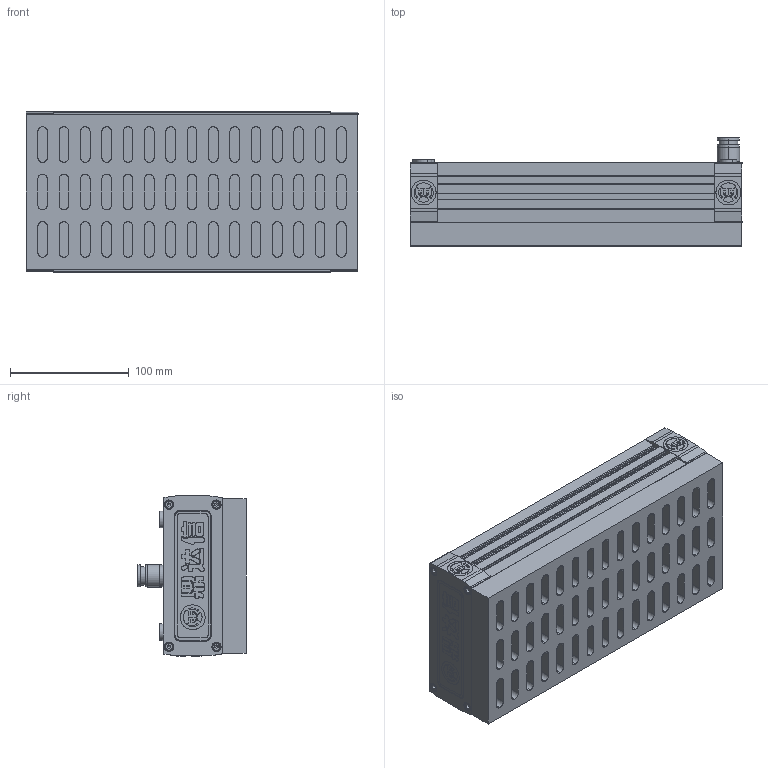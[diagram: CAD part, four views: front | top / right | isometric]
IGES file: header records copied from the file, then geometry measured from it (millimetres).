
Start section: SolidWorks IGES file using analytic representation for surfaces
Bounding box: 280 x 91.2 x 135 mm (x, y, z)
Surface area: 331750.2 mm2 (no closed solid volume)
Topology: 0 solids, 0 shells, 1692 faces, 22070 edges, 22054 vertices
Faces by surface type: bspline 1119, revolution 573
